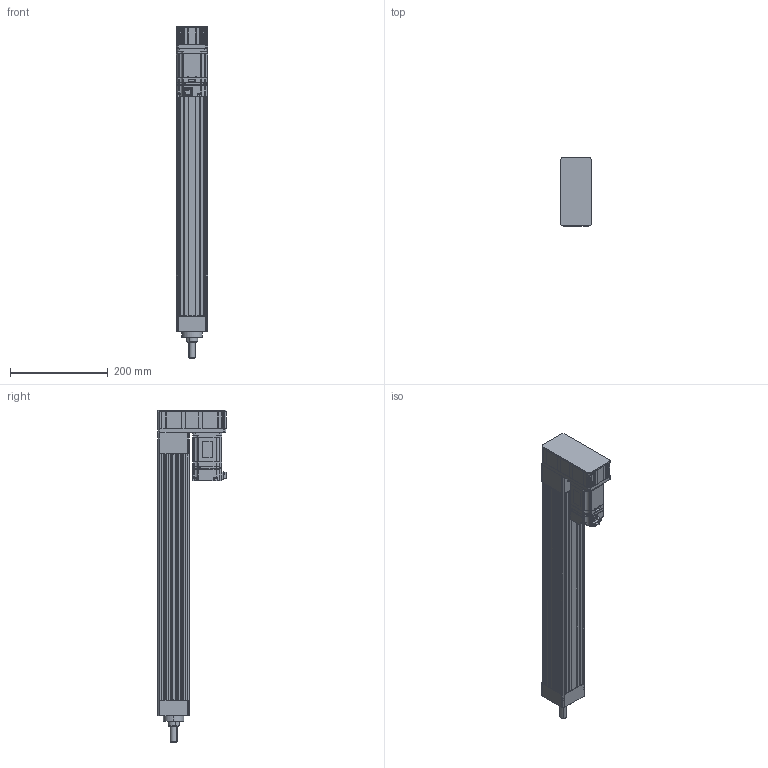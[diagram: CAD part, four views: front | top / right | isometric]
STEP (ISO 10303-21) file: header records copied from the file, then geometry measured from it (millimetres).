
FILE_DESCRIPTION (( 'STEP AP203' ), '1' );
FILE_NAME ('ANS065R-P400-05(10)(20)-W40-M.STEP', '2019-03-03T04:45:18', ( 'user' ), ( '' ), 'SwSTEP 2.0', 'SolidWorks 2013', '' );
FILE_SCHEMA (( 'CONFIG_CONTROL_DESIGN' ));
Length unit declared in the file: millimetre
Products named in the file (4): sgmjv_04a_a21; ANS065 ROD ST400-M; ANS065R-P400-05(10)(20)-W40-M; ANS065R P400 VER2
Assembly tree (3 placements, depth 2):
  ANS065R-P400-05(10)(20)-W40-M
    ANS065R P400 VER2
    sgmjv_04a_a21
    ANS065 ROD ST400-M
Bounding box: 65 x 140.3 x 680 mm (x, y, z)
Volume: 1911134.6 mm3; surface area: 482410.3 mm2
Topology: 3 solids, 7 shells, 1283 faces, 3465 edges, 2248 vertices
Faces by surface type: plane 817, cylinder 380, cone 86
Entity records: 40363 total; most frequent: CARTESIAN_POINT 7232, ORIENTED_EDGE 6898, DIRECTION 6761, EDGE_CURVE 3449, VECTOR 2567, LINE 2567, VERTEX_POINT 2248, AXIS2_PLACEMENT_3D 2097
